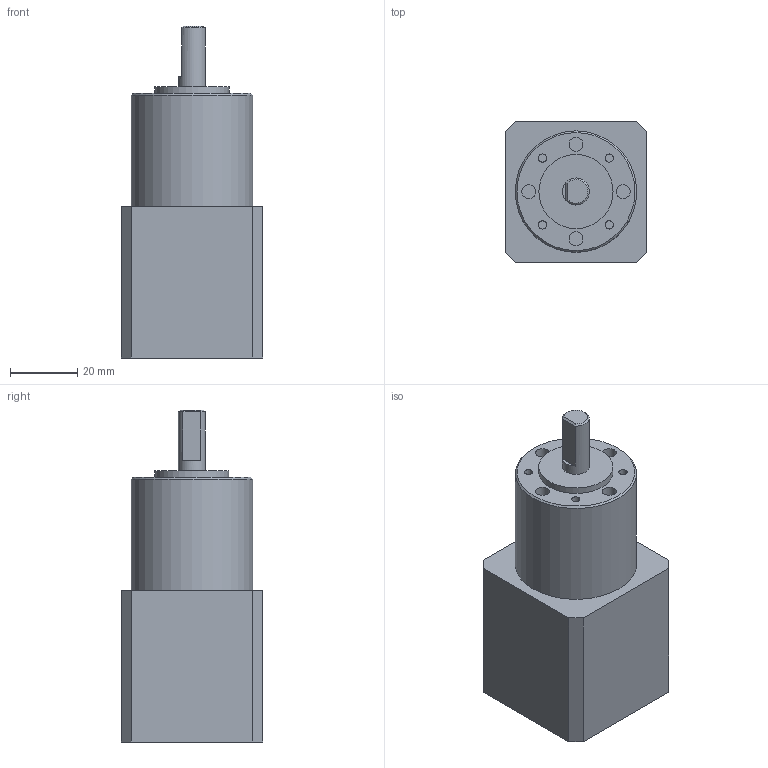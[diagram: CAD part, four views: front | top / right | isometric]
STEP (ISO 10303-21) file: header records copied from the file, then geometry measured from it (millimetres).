
FILE_DESCRIPTION(/* description */ ('Alibre Inc.'),/* implementation_level */ '2;1');
FILE_NAME(/* name */ 'export0',/* time_stamp */ '2013-07-05T07:59:26-06:00',/* author */ (''),/* organization */ (''),/* preprocessor_version */ 'ST-DEVELOPER v14',/* originating_system */ 'Alibre',/* authorisation */ '');
FILE_SCHEMA (('ALIBRE_SCHEMA','CONFIG_CONTROL_DESIGN'));
Length unit declared in the file: centimetre
Products named in the file (1): ID_1
Bounding box: 42 x 42 x 98.5 mm (x, y, z)
Volume: 113917.8 mm3; surface area: 15450 mm2
Topology: 1 solids, 1 shells, 37 faces, 69 edges, 45 vertices
Faces by surface type: plane 24, cylinder 11, cone 2
Full cylindrical faces by diameter (mm): 2.459 x4, 4.134 x4, 8 x1, 22 x1, 36 x1
Entity records: 3390 total; most frequent: CARTESIAN_POINT 454, REFERENCEDEPENDENTUV 241, DIRECTION 211, CONSTRAINTPAIRUV 187, REFERENCEPOINTUV 138, CIRCLE 117, PERSISTANTTOPOLOGYATTRIBUTE 112, ORIENTED_EDGE 112
